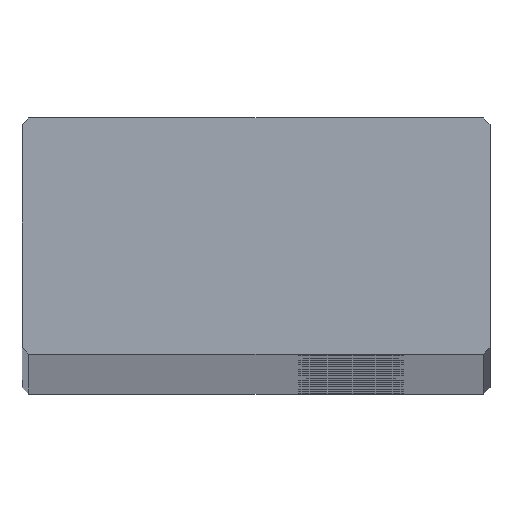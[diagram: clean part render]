
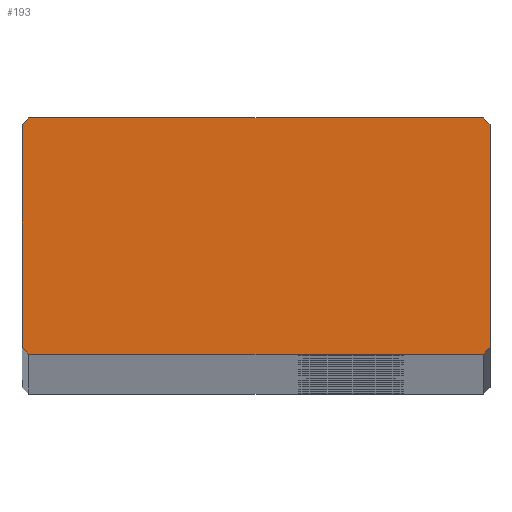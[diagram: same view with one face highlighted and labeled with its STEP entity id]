
A CAD part, top view. The second image highlights one B-rep face of the part: STEP entity #193.
In plain terms, the highlighted planar face has unit normal (0, 0, 1).
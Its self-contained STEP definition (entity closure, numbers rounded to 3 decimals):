
#193=ADVANCED_FACE('',(#498),#499,.T.);
#498=FACE_OUTER_BOUND('',#804,.T.);
#499=PLANE('',#805);
#804=EDGE_LOOP('',(#1722,#1723,#1724,#1725,#1726,#1727,#1728,#1729));
#805=AXIS2_PLACEMENT_3D('',#1730,#1731,#1732);
#1722=ORIENTED_EDGE('',*,*,#2008,.F.);
#1723=ORIENTED_EDGE('',*,*,#2030,.F.);
#1724=ORIENTED_EDGE('',*,*,#2027,.F.);
#1725=ORIENTED_EDGE('',*,*,#2024,.F.);
#1726=ORIENTED_EDGE('',*,*,#2021,.F.);
#1727=ORIENTED_EDGE('',*,*,#2018,.F.);
#1728=ORIENTED_EDGE('',*,*,#2015,.F.);
#1729=ORIENTED_EDGE('',*,*,#2012,.F.);
#1730=CARTESIAN_POINT('',(0.,10.2,1976.0));
#1731=DIRECTION('',(0.0,0.0,1.0));
#1732=DIRECTION('',(1.0,0.0,0.0));
#2008=EDGE_CURVE('',#2472,#2473,#2474,.T.);
#2012=EDGE_CURVE('',#2473,#2480,#2481,.T.);
#2015=EDGE_CURVE('',#2480,#2485,#2486,.T.);
#2018=EDGE_CURVE('',#2485,#2490,#2491,.T.);
#2021=EDGE_CURVE('',#2490,#2495,#2496,.T.);
#2024=EDGE_CURVE('',#2495,#2500,#2501,.T.);
#2027=EDGE_CURVE('',#2500,#2505,#2506,.T.);
#2030=EDGE_CURVE('',#2505,#2472,#2510,.T.);
#2472=VERTEX_POINT('',#3040);
#2473=VERTEX_POINT('',#3041);
#2474=LINE('',#3042,#3043);
#2480=VERTEX_POINT('',#3052);
#2481=LINE('',#3053,#3054);
#2485=VERTEX_POINT('',#3060);
#2486=LINE('',#3061,#3062);
#2490=VERTEX_POINT('',#3068);
#2491=LINE('',#3069,#3070);
#2495=VERTEX_POINT('',#3076);
#2496=LINE('',#3077,#3078);
#2500=VERTEX_POINT('',#3084);
#2501=LINE('',#3085,#3086);
#2505=VERTEX_POINT('',#3092);
#2506=LINE('',#3093,#3094);
#2510=LINE('',#3100,#3101);
#3040=CARTESIAN_POINT('',(-19.6,0.,1976.0));
#3041=CARTESIAN_POINT('',(-20.2,0.6,1976.0));
#3042=CARTESIAN_POINT('',(-19.6,0.,1976.0));
#3043=VECTOR('',#3720,1.0);
#3052=CARTESIAN_POINT('',(-20.2,19.8,1976.0));
#3053=CARTESIAN_POINT('',(-20.2,0.6,1976.0));
#3054=VECTOR('',#3724,1.0);
#3060=CARTESIAN_POINT('',(-19.6,20.4,1976.0));
#3061=CARTESIAN_POINT('',(-20.2,19.8,1976.0));
#3062=VECTOR('',#3727,1.0);
#3068=CARTESIAN_POINT('',(19.6,20.4,1976.0));
#3069=CARTESIAN_POINT('',(-19.6,20.4,1976.0));
#3070=VECTOR('',#3730,1.0);
#3076=CARTESIAN_POINT('',(20.2,19.8,1976.0));
#3077=CARTESIAN_POINT('',(19.6,20.4,1976.0));
#3078=VECTOR('',#3733,1.0);
#3084=CARTESIAN_POINT('',(20.2,0.6,1976.0));
#3085=CARTESIAN_POINT('',(20.2,0.6,1976.0));
#3086=VECTOR('',#3736,1.0);
#3092=CARTESIAN_POINT('',(19.6,0.,1976.0));
#3093=CARTESIAN_POINT('',(19.6,0.,1976.0));
#3094=VECTOR('',#3739,1.0);
#3100=CARTESIAN_POINT('',(-19.6,0.,1976.0));
#3101=VECTOR('',#3742,1.0);
#3720=DIRECTION('',(-0.707,0.707,0.0));
#3724=DIRECTION('',(0.0,1.0,0.0));
#3727=DIRECTION('',(0.707,0.707,0.0));
#3730=DIRECTION('',(1.0,0.0,0.0));
#3733=DIRECTION('',(0.707,-0.707,0.0));
#3736=DIRECTION('',(-0.0,-1.0,-0.0));
#3739=DIRECTION('',(-0.707,-0.707,-0.0));
#3742=DIRECTION('',(-1.0,-0.0,-0.0));
